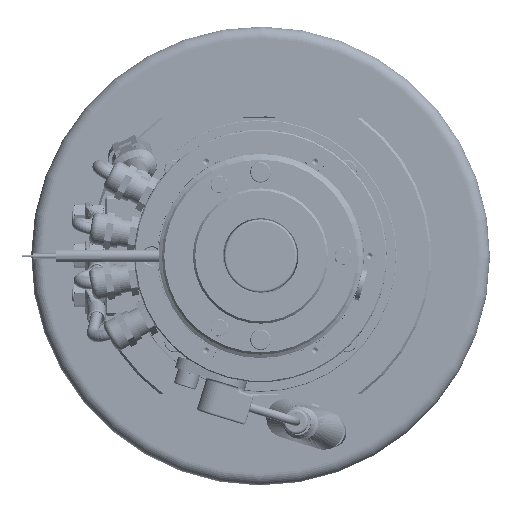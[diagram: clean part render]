
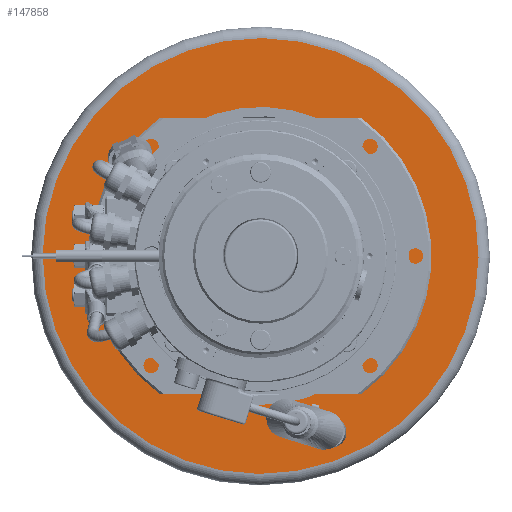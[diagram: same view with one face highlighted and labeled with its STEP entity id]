
A CAD part, left-side view. The second image highlights one B-rep face of the part: STEP entity #147858.
In plain terms, the highlighted planar face has unit normal (-1, 0, 0).
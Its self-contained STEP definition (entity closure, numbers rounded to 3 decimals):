
#2060=FACE_BOUND('',#18734,.T.);
#4359=CIRCLE('',#156587,95.);
#4365=CIRCLE('',#156595,65.);
#10936=FACE_OUTER_BOUND('',#18733,.T.);
#18733=EDGE_LOOP('',(#93818));
#18734=EDGE_LOOP('',(#93819));
#55551=VERTEX_POINT('',#216747);
#55556=VERTEX_POINT('',#216761);
#70200=EDGE_CURVE('',#55551,#55551,#4359,.T.);
#70207=EDGE_CURVE('',#55556,#55556,#4365,.T.);
#93818=ORIENTED_EDGE('',*,*,#70200,.F.);
#93819=ORIENTED_EDGE('',*,*,#70207,.F.);
#133901=PLANE('',#156594);
#147858=ADVANCED_FACE('',(#10936,#2060),#133901,.T.);
#156587=AXIS2_PLACEMENT_3D('',#216748,#174319,#174320);
#156594=AXIS2_PLACEMENT_3D('',#216760,#174334,#174335);
#156595=AXIS2_PLACEMENT_3D('',#216762,#174336,#174337);
#174319=DIRECTION('center_axis',(1.,0.,0.));
#174320=DIRECTION('ref_axis',(0.,-0.648,0.761));
#174334=DIRECTION('center_axis',(-1.,0.,0.));
#174335=DIRECTION('ref_axis',(0.,0.761,0.648));
#174336=DIRECTION('center_axis',(-1.,0.,0.));
#174337=DIRECTION('ref_axis',(0.,-0.304,-0.953));
#216747=CARTESIAN_POINT('',(-54.5,-72.331,-61.59));
#216748=CARTESIAN_POINT('Origin',(-54.5,0.,0.));
#216760=CARTESIAN_POINT('Origin',(-54.5,42.14,-49.489));
#216761=CARTESIAN_POINT('',(-54.5,-61.913,19.792));
#216762=CARTESIAN_POINT('Origin',(-54.5,0.,
0.));
